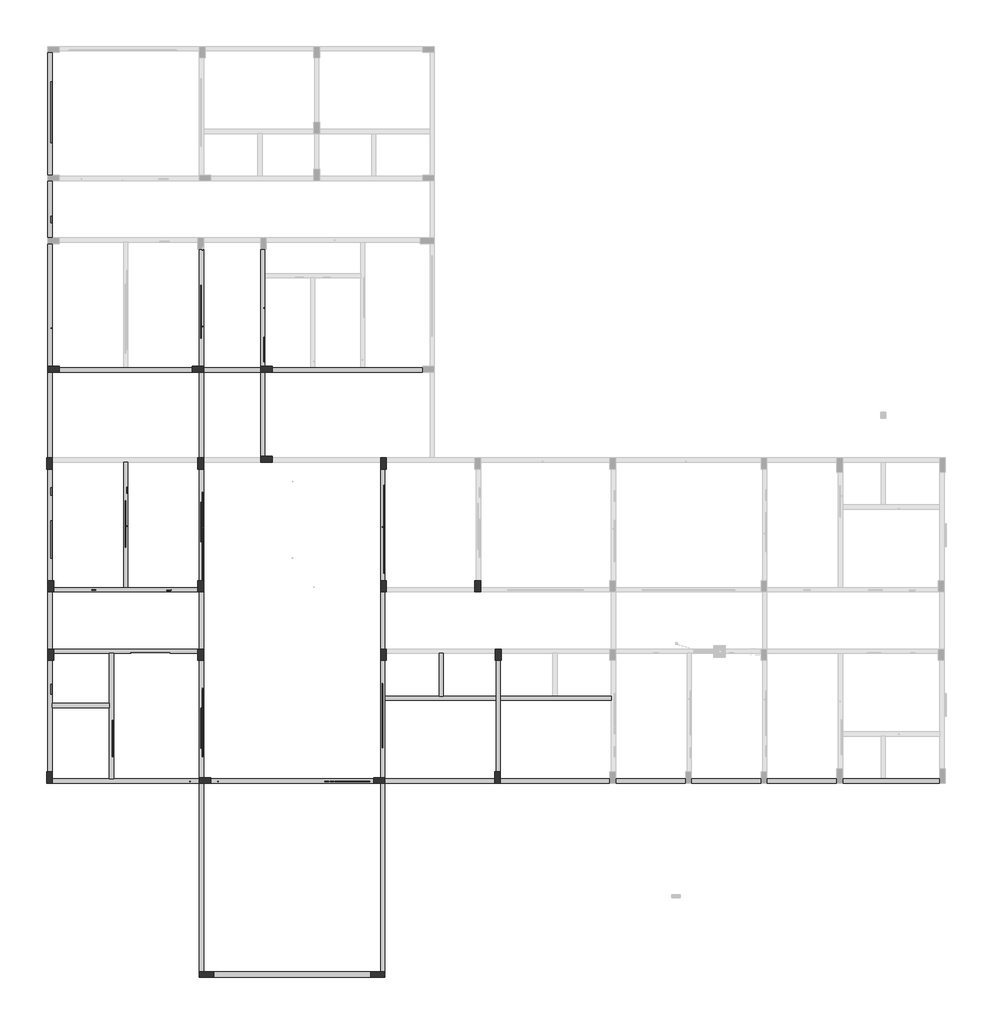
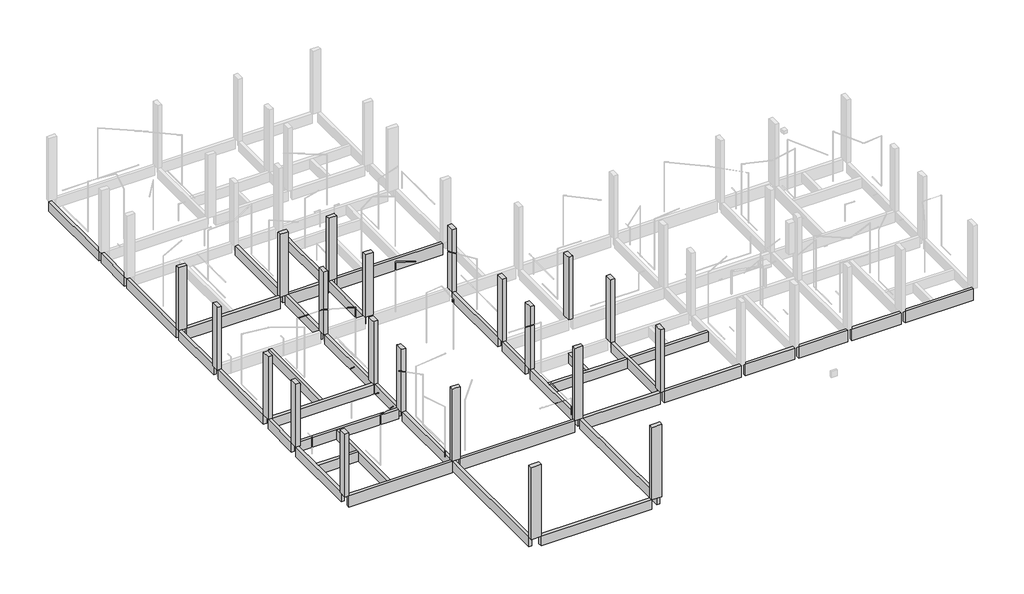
# One storey, part 1 of 4: 21 columns, 15 beams.
"""IFC4 building model written with IfcOpenShell, lengths in millimetres."""

from ifc_helpers import new_model, si_unit, frame, origin, place, context, project, spatial, polyline, outline, extrude, faceted_brep, element, save

model = new_model("IFC4")

# Units and contexts
model_context = context("Model", 3, world=origin())
ifc_project = project(units=[si_unit("LENGTHUNIT", "METRE", prefix="MILLI")], contexts=[model_context])

# Site, building, storey
site = spatial("IfcSite", under=ifc_project)
building = spatial("IfcBuilding", under=site)
storey = spatial("IfcBuildingStorey", under=building, Name="BALDRAME", Elevation=1500.0)

# Beams
placement = place(None, origin())
element("IfcBeam", 1, ObjectType="TQS - Viga retangular : 15,0 x 50,0", at=placement, inside=storey, context=model_context, shape_type="Brep", body=[
    faceted_brep([(0.0, 21300.0, 1500.0), (150.0, 21300.0, 1500.0), (150.0, 25600.0, 1500.0), (0.0, 25600.0, 1500.0), (150.0, 21300.0, 1000.0), (150.0, 25600.0, 1000.0), (0.0, 21300.0, 1000.0), (0.0, 25600.0, 1000.0)], [[[0, 1, 2, 3]], [[1, 4, 5, 2]], [[4, 6, 7, 5]], [[6, 0, 3, 7]], [[1, 0, 6, 4]], [[3, 2, 5, 7]]]),
    faceted_brep([(150.0, 400.0, 1500.0), (0.0, 400.0, 1500.0), (0.0, 400.0, 1000.0), (150.0, 400.0, 1000.0), (0.0, 4300.0, 1500.0), (150.0, 4300.0, 1500.0), (150.0, 4300.0, 1000.0), (0.0, 4300.0, 1000.0), (150.0, 2650.0, 1500.0), (150.0, 2800.0, 1500.0), (150.0, 2650.0, 1000.0), (150.0, 2800.0, 1000.0)], [[[0, 1, 2, 3]], [[4, 5, 6, 7]], [[1, 0, 8, 9, 5, 4]], [[0, 3, 10, 11, 6, 5, 9, 8]], [[3, 2, 7, 6, 11, 10]], [[2, 1, 4, 7]]]),
    faceted_brep([(0.0, 6700.0, 1500.0), (150.0, 6700.0, 1500.0), (150.0, 6700.0, 1000.0), (0.0, 6700.0, 1000.0), (0.0, 4700.0, 1500.0), (150.0, 4700.0, 1500.0), (150.0, 4700.0, 1000.0), (0.0, 4700.0, 1000.0)], [[[0, 1, 2, 3]], [[1, 0, 4, 5]], [[2, 1, 5, 6]], [[3, 2, 6, 7]], [[0, 3, 7, 4]], [[5, 4, 7, 6]]]),
    faceted_brep([(150.0, 7100.0, 1500.0), (0.0, 7100.0, 1500.0), (0.0, 7100.0, 1000.0), (150.0, 7100.0, 1000.0), (0.0, 11000.0, 1500.0), (150.0, 11000.0, 1500.0), (150.0, 11000.0, 1000.0), (0.0, 11000.0, 1000.0)], [[[0, 1, 2, 3]], [[4, 5, 6, 7]], [[1, 0, 5, 4]], [[0, 3, 6, 5]], [[3, 2, 7, 6]], [[2, 1, 4, 7]]]),
    faceted_brep([(150.0, 11400.0, 1500.0), (0.0, 11400.0, 1500.0), (0.0, 11400.0, 1000.0), (150.0, 11400.0, 1000.0), (0.0, 14400.0, 1500.0), (150.0, 14400.0, 1500.0), (150.0, 14400.0, 1000.0), (0.0, 14400.0, 1000.0)], [[[0, 1, 2, 3]], [[4, 5, 6, 7]], [[1, 0, 5, 4]], [[0, 3, 6, 5]], [[3, 2, 7, 6]], [[2, 1, 4, 7]]]),
    faceted_brep([(150.0, 14600.0, 1500.0), (0.0, 14600.0, 1500.0), (0.0, 14600.0, 1000.0), (150.0, 14600.0, 1000.0), (0.0, 18900.0, 1500.0), (150.0, 18900.0, 1500.0), (150.0, 18900.0, 1000.0), (0.0, 18900.0, 1000.0)], [[[0, 1, 2, 3]], [[4, 5, 6, 7]], [[1, 0, 5, 4]], [[0, 3, 6, 5]], [[3, 2, 7, 6]], [[2, 1, 4, 7]]]),
    faceted_brep([(150.0, 19100.0, 1500.0), (0.0, 19100.0, 1500.0), (0.0, 19100.0, 1000.0), (150.0, 19100.0, 1000.0), (0.0, 21100.0, 1500.0), (150.0, 21100.0, 1500.0), (150.0, 21100.0, 1000.0), (0.0, 21100.0, 1000.0)], [[[0, 1, 2, 3]], [[4, 5, 6, 7]], [[1, 0, 5, 4]], [[0, 3, 6, 5]], [[3, 2, 7, 6]], [[2, 1, 4, 7]]]),
])
element("IfcBeam", 2, ObjectType="TQS - Viga retangular : 15,0 x 50,0", at=placement, inside=storey, context=model_context, shape_type="Brep", body=[
    faceted_brep([(5250.0, 6700.0, 1500.0), (5250.0, 6850.0, 1500.0), (2800.0, 6850.0, 1500.0), (2650.0, 6850.0, 1500.0), (200.0, 6850.0, 1500.0), (200.0, 6700.0, 1500.0), (5250.0, 6700.0, 1000.0), (200.0, 6700.0, 1000.0), (5250.0, 6850.0, 1000.0), (200.0, 6850.0, 1000.0), (2650.0, 6850.0, 1000.0), (2800.0, 6850.0, 1000.0)], [[[0, 1, 2, 3, 4, 5]], [[6, 0, 5, 7]], [[8, 6, 7, 9, 10, 11]], [[1, 8, 11, 10, 9, 4, 3, 2]], [[1, 0, 6, 8]], [[5, 4, 9, 7]]]),
])
element("IfcBeam", 3, ObjectType="TQS - Viga retangular : 15,0 x 50,0", at=placement, inside=storey, context=model_context, shape_type="Brep", body=[
    faceted_brep([(5250.0, 4550.0, 1500.0), (5250.0, 4700.0, 1500.0), (200.0, 4700.0, 1500.0), (200.0, 4550.0, 1500.0), (2150.0, 4550.0, 1500.0), (2300.0, 4550.0, 1500.0), (5250.0, 4550.0, 1000.0), (200.0, 4550.0, 1000.0), (2150.0, 4550.0, 1000.0), (2300.0, 4550.0, 1000.0), (5250.0, 4700.0, 1000.0), (200.0, 4700.0, 1000.0)], [[[0, 1, 2, 3, 4, 5]], [[6, 0, 5, 4, 3, 7, 8, 9]], [[10, 6, 9, 8, 7, 11]], [[1, 10, 11, 2]], [[1, 0, 6, 10]], [[3, 2, 11, 7]]]),
])
element("IfcBeam", 4, ObjectType="TQS - Viga retangular : 15,0 x 50,0", at=placement, inside=storey, context=model_context, shape_type="SweptSolid", body=[
    extrude(outline(polyline([(5450.0, 14600.0), (5300.0, 14600.0), (5300.0, 18700.0), (5450.0, 18700.0), (5450.0, 14600.0)])), frame((0.0, 0.0, 1000.0), z_axis=(0.0, 0.0, 1.0), x_axis=(1.0, 0.0, 0.0)), (0.0, 0.0, 1.0), 500.0),
    extrude(outline(polyline([(5300.0, 0.0), (5450.0, 0.0), (5450.0, -6600.0), (5300.0, -6600.0), (5300.0, 0.0)])), frame((0.0, 0.0, 1000.0), z_axis=(0.0, 0.0, 1.0), x_axis=(1.0, 0.0, 0.0)), (0.0, 0.0, 1.0), 500.0),
    extrude(outline(polyline([(5450.0, 200.0), (5300.0, 200.0), (5300.0, 4300.0), (5450.0, 4300.0), (5450.0, 200.0)])), frame((0.0, 0.0, 1000.0), z_axis=(0.0, 0.0, 1.0), x_axis=(1.0, 0.0, 0.0)), (0.0, 0.0, 1.0), 500.0),
    extrude(outline(polyline([(5450.0, 4700.0), (5300.0, 4700.0), (5300.0, 6700.0), (5450.0, 6700.0), (5450.0, 4700.0)])), frame((0.0, 0.0, 1000.0), z_axis=(0.0, 0.0, 1.0), x_axis=(1.0, 0.0, 0.0)), (0.0, 0.0, 1.0), 500.0),
    extrude(outline(polyline([(5450.0, 7100.0), (5300.0, 7100.0), (5300.0, 11000.0), (5450.0, 11000.0), (5450.0, 7100.0)])), frame((0.0, 0.0, 1000.0), z_axis=(0.0, 0.0, 1.0), x_axis=(1.0, 0.0, 0.0)), (0.0, 0.0, 1.0), 500.0),
    extrude(outline(polyline([(5450.0, 11400.0), (5300.0, 11400.0), (5300.0, 14400.0), (5450.0, 14400.0), (5450.0, 11400.0)])), frame((0.0, 0.0, 1000.0), z_axis=(0.0, 0.0, 1.0), x_axis=(1.0, 0.0, 0.0)), (0.0, 0.0, 1.0), 500.0),
])
element("IfcBeam", 5, ObjectType="TQS - Viga retangular : 15,0 x 50,0", at=placement, inside=storey, context=model_context, shape_type="Brep", body=[
    faceted_brep([(11800.0, 0.0, 1500.0), (11650.0, 0.0, 1500.0), (11650.0, -6600.0, 1500.0), (11800.0, -6600.0, 1500.0), (11800.0, 0.0, 1000.0), (11800.0, -6600.0, 1000.0), (11650.0, 0.0, 1000.0), (11650.0, -6600.0, 1000.0)], [[[0, 1, 2, 3]], [[4, 0, 3, 5]], [[6, 4, 5, 7]], [[1, 6, 7, 2]], [[1, 0, 4, 6]], [[3, 2, 7, 5]]]),
    faceted_brep([(11800.0, 200.0, 1500.0), (11650.0, 200.0, 1500.0), (11650.0, 200.0, 1000.0), (11800.0, 200.0, 1000.0), (11650.0, 4300.0, 1500.0), (11800.0, 4300.0, 1500.0), (11800.0, 4300.0, 1000.0), (11650.0, 4300.0, 1000.0), (11800.0, 2900.0, 1500.0), (11800.0, 3050.0, 1500.0), (11800.0, 2900.0, 1000.0), (11800.0, 3050.0, 1000.0)], [[[0, 1, 2, 3]], [[4, 5, 6, 7]], [[1, 0, 8, 9, 5, 4]], [[0, 3, 10, 11, 6, 5, 9, 8]], [[3, 2, 7, 6, 11, 10]], [[2, 1, 4, 7]]]),
    faceted_brep([(11650.0, 6700.0, 1500.0), (11650.0, 4700.0, 1500.0), (11800.0, 4700.0, 1500.0), (11800.0, 6700.0, 1500.0), (11800.0, 4700.0, 1000.0), (11800.0, 6700.0, 1000.0), (11650.0, 4700.0, 1000.0), (11650.0, 6700.0, 1000.0)], [[[0, 1, 2, 3]], [[3, 2, 4, 5]], [[5, 4, 6, 7]], [[1, 0, 7, 6]], [[2, 1, 6, 4]], [[0, 3, 5, 7]]]),
    faceted_brep([(11800.0, 7100.0, 1500.0), (11650.0, 7100.0, 1500.0), (11650.0, 7100.0, 1000.0), (11800.0, 7100.0, 1000.0), (11650.0, 11000.0, 1500.0), (11800.0, 11000.0, 1500.0), (11800.0, 11000.0, 1000.0), (11650.0, 11000.0, 1000.0)], [[[0, 1, 2, 3]], [[4, 5, 6, 7]], [[4, 1, 0, 5]], [[5, 0, 3, 6]], [[6, 3, 2, 7]], [[1, 4, 7, 2]]]),
])
element("IfcBeam", 6, ObjectType="TQS - Viga retangular : 15,0 x 50,0", at=placement, inside=storey, context=model_context, shape_type="Brep", body=[
    faceted_brep([(15690.0, 400.0, 1500.0), (15840.0, 400.0, 1500.0), (15840.0, 2900.0, 1500.0), (15840.0, 3050.0, 1500.0), (15840.0, 4300.0, 1500.0), (15690.0, 4300.0, 1500.0), (15690.0, 3050.0, 1500.0), (15690.0, 2900.0, 1500.0), (15840.0, 400.0, 1000.0), (15840.0, 2900.0, 1000.0), (15840.0, 3050.0, 1000.0), (15840.0, 4300.0, 1000.0), (15690.0, 400.0, 1000.0), (15690.0, 2900.0, 1000.0), (15690.0, 3050.0, 1000.0), (15690.0, 4300.0, 1000.0)], [[[0, 1, 2, 3, 4, 5, 6, 7]], [[1, 8, 9, 10, 11, 4, 3, 2]], [[8, 12, 13, 14, 15, 11, 10, 9]], [[12, 0, 7, 6, 5, 15, 14, 13]], [[1, 0, 12, 8]], [[5, 4, 11, 15]]]),
])
element("IfcBeam", 7, ObjectType="TQS - Viga retangular : 15,0 x 50,0", at=placement, inside=storey, context=model_context, shape_type="Brep", body=[
    faceted_brep([(15840.0, 3050.0, 1500.0), (15840.0, 2900.0, 1500.0), (19730.0, 2900.0, 1500.0), (19730.0, 3050.0, 1500.0), (17830.0, 3050.0, 1500.0), (17680.0, 3050.0, 1500.0), (15840.0, 2900.0, 1000.0), (19730.0, 2900.0, 1000.0), (15840.0, 3050.0, 1000.0), (17680.0, 3050.0, 1000.0), (17830.0, 3050.0, 1000.0), (19730.0, 3050.0, 1000.0)], [[[0, 1, 2, 3, 4, 5]], [[1, 6, 7, 2]], [[6, 8, 9, 10, 11, 7]], [[8, 0, 5, 4, 3, 11, 10, 9]], [[1, 0, 8, 6]], [[3, 2, 7, 11]]]),
    faceted_brep([(11800.0, 2900.0, 1500.0), (11800.0, 3050.0, 1500.0), (11800.0, 3050.0, 1000.0), (11800.0, 2900.0, 1000.0), (15690.0, 3050.0, 1500.0), (15690.0, 2900.0, 1500.0), (15690.0, 2900.0, 1000.0), (15690.0, 3050.0, 1000.0), (13850.0, 3050.0, 1500.0), (13700.0, 3050.0, 1500.0), (13700.0, 3050.0, 1000.0), (13850.0, 3050.0, 1000.0)], [[[0, 1, 2, 3]], [[4, 5, 6, 7]], [[1, 0, 5, 4, 8, 9]], [[0, 3, 6, 5]], [[3, 2, 10, 11, 7, 6]], [[2, 1, 9, 8, 4, 7, 11, 10]]]),
])
element("IfcBeam", 8, ObjectType="TQS - Viga retangular : 15,0 x 50,0", at=placement, inside=storey, context=model_context, shape_type="SweptSolid", body=[
    extrude(outline(polyline([(13700.0, 4550.0), (13850.0, 4550.0), (13850.0, 3050.0), (13700.0, 3050.0), (13700.0, 4550.0)])), frame((0.0, 0.0, 1000.0), z_axis=(0.0, 0.0, 1.0), x_axis=(1.0, 0.0, 0.0)), (0.0, 0.0, 1.0), 500.0),
])
element("IfcBeam", 9, ObjectType="TQS - Viga retangular : 15,0 x 50,0", at=placement, inside=storey, context=model_context, shape_type="Brep", body=[
    faceted_brep([(2150.0, 150.0, 1500.0), (2300.0, 150.0, 1500.0), (2300.0, 4550.0, 1500.0), (2150.0, 4550.0, 1500.0), (2150.0, 2800.0, 1500.0), (2150.0, 2650.0, 1500.0), (2300.0, 150.0, 1000.0), (2300.0, 4550.0, 1000.0), (2150.0, 150.0, 1000.0), (2150.0, 2650.0, 1000.0), (2150.0, 2800.0, 1000.0), (2150.0, 4550.0, 1000.0)], [[[0, 1, 2, 3, 4, 5]], [[1, 6, 7, 2]], [[6, 8, 9, 10, 11, 7]], [[8, 0, 5, 4, 3, 11, 10, 9]], [[1, 0, 8, 6]], [[3, 2, 7, 11]]]),
])
element("IfcBeam", 10, ObjectType="TQS - Viga retangular : 15,0 x 50,0", at=placement, inside=storey, context=model_context, shape_type="SweptSolid", body=[
    extrude(outline(polyline([(150.0, 2650.0), (150.0, 2800.0), (2150.0, 2800.0), (2150.0, 2650.0), (150.0, 2650.0)])), frame((0.0, 0.0, 1000.0), z_axis=(0.0, 0.0, 1.0), x_axis=(1.0, 0.0, 0.0)), (0.0, 0.0, 1.0), 500.0),
])
element("IfcBeam", 11, ObjectType="TQS - Viga retangular : 15,0 x 50,0", at=placement, inside=storey, context=model_context, shape_type="Brep", body=[
    faceted_brep([(7600.0, 14400.0, 1500.0), (7450.0, 14400.0, 1500.0), (7450.0, 11450.0, 1500.0), (7600.0, 11450.0, 1500.0), (7600.0, 14400.0, 1000.0), (7600.0, 11450.0, 1000.0), (7450.0, 14400.0, 1000.0), (7450.0, 11450.0, 1000.0)], [[[0, 1, 2, 3]], [[4, 0, 3, 5]], [[6, 4, 5, 7]], [[1, 6, 7, 2]], [[1, 0, 4, 6]], [[3, 2, 7, 5]]]),
    faceted_brep([(7450.0, 18700.0, 1500.0), (7600.0, 18700.0, 1500.0), (7600.0, 18700.0, 1000.0), (7450.0, 18700.0, 1000.0), (7600.0, 14600.0, 1500.0), (7450.0, 14600.0, 1500.0), (7450.0, 14600.0, 1000.0), (7600.0, 14600.0, 1000.0), (7600.0, 17700.0, 1500.0), (7600.0, 17850.0, 1500.0), (7600.0, 17700.0, 1000.0), (7600.0, 17850.0, 1000.0)], [[[0, 1, 2, 3]], [[4, 5, 6, 7]], [[1, 0, 5, 4, 8, 9]], [[2, 1, 9, 8, 4, 7, 10, 11]], [[3, 2, 11, 10, 7, 6]], [[0, 3, 6, 5]]]),
])
element("IfcBeam", 12, ObjectType="TQS - Viga retangular : 15,0 x 50,0", at=placement, inside=storey, context=model_context, shape_type="SweptSolid", body=[
    extrude(outline(polyline([(2650.0, 11250.0), (2800.0, 11250.0), (2800.0, 6850.0), (2650.0, 6850.0), (2650.0, 11250.0)])), frame((0.0, 0.0, 1000.0), z_axis=(0.0, 0.0, 1.0), x_axis=(1.0, 0.0, 0.0)), (0.0, 0.0, 1.0), 500.0),
])
element("IfcBeam", 13, ObjectType="TQS - Viga retangular : 15,0 x 60,0", at=placement, inside=storey, context=model_context, shape_type="Brep", body=[
    faceted_brep([(31230.0, 0.0, 1500.0), (31230.0, 150.0, 1500.0), (29330.0, 150.0, 1500.0), (29180.0, 150.0, 1500.0), (27830.0, 150.0, 1500.0), (27830.0, 0.0, 1500.0), (31230.0, 0.0, 900.0), (27830.0, 0.0, 900.0), (31230.0, 150.0, 900.0), (27830.0, 150.0, 900.0)], [[[0, 1, 2, 3, 4, 5]], [[6, 0, 5, 7]], [[8, 6, 7, 9]], [[1, 8, 9, 4, 3, 2]], [[1, 0, 6, 8]], [[5, 4, 9, 7]]]),
    faceted_brep([(150.0, 0.0, 1500.0), (150.0, 150.0, 1500.0), (150.0, 150.0, 900.0), (150.0, 0.0, 900.0), (5300.0, 150.0, 1500.0), (5300.0, 0.0, 1500.0), (5300.0, 0.0, 900.0), (5300.0, 150.0, 900.0), (2300.0, 150.0, 1500.0), (2150.0, 150.0, 1500.0)], [[[0, 1, 2, 3]], [[4, 5, 6, 7]], [[1, 0, 5, 4, 8, 9]], [[0, 3, 6, 5]], [[3, 2, 7, 6]], [[2, 1, 9, 8, 4, 7]]]),
    faceted_brep([(5700.0, 0.0, 1500.0), (5700.0, 150.0, 1500.0), (5700.0, 150.0, 900.0), (5700.0, 0.0, 900.0), (11400.0, 150.0, 1500.0), (11400.0, 0.0, 1500.0), (11400.0, 0.0, 900.0), (11400.0, 150.0, 900.0)], [[[0, 1, 2, 3]], [[4, 5, 6, 7]], [[1, 0, 5, 4]], [[0, 3, 6, 5]], [[3, 2, 7, 6]], [[2, 1, 4, 7]]]),
    faceted_brep([(11800.0, 0.0, 1500.0), (11800.0, 150.0, 1500.0), (11800.0, 150.0, 900.0), (11800.0, 0.0, 900.0), (15640.0, 150.0, 1500.0), (15640.0, 0.0, 1500.0), (15640.0, 0.0, 900.0), (15640.0, 150.0, 900.0)], [[[0, 1, 2, 3]], [[4, 5, 6, 7]], [[1, 0, 5, 4]], [[0, 3, 6, 5]], [[3, 2, 7, 6]], [[2, 1, 4, 7]]]),
    faceted_brep([(27630.0, 150.0, 1500.0), (27630.0, 0.0, 1500.0), (27630.0, 0.0, 900.0), (27630.0, 150.0, 900.0), (25180.0, 150.0, 1500.0), (25180.0, 0.0, 1500.0), (25180.0, 0.0, 900.0), (25180.0, 150.0, 900.0)], [[[0, 1, 2, 3]], [[1, 0, 4, 5]], [[2, 1, 5, 6]], [[3, 2, 6, 7]], [[0, 3, 7, 4]], [[5, 4, 7, 6]]]),
    faceted_brep([(24980.0, 150.0, 1500.0), (24980.0, 0.0, 1500.0), (24980.0, 0.0, 900.0), (24980.0, 150.0, 900.0), (22530.0, 150.0, 1500.0), (22530.0, 0.0, 1500.0), (22530.0, 0.0, 900.0), (22530.0, 150.0, 900.0)], [[[0, 1, 2, 3]], [[1, 0, 4, 5]], [[2, 1, 5, 6]], [[3, 2, 6, 7]], [[0, 3, 7, 4]], [[5, 4, 7, 6]]]),
    faceted_brep([(22330.0, 150.0, 1500.0), (22330.0, 0.0, 1500.0), (22330.0, 0.0, 900.0), (22330.0, 150.0, 900.0), (19880.0, 150.0, 1500.0), (19880.0, 0.0, 1500.0), (19880.0, 0.0, 900.0), (19880.0, 150.0, 900.0)], [[[0, 1, 2, 3]], [[1, 0, 4, 5]], [[2, 1, 5, 6]], [[3, 2, 6, 7]], [[0, 3, 7, 4]], [[5, 4, 7, 6]]]),
    faceted_brep([(19680.0, 150.0, 1500.0), (19680.0, 0.0, 1500.0), (19680.0, 0.0, 900.0), (19680.0, 150.0, 900.0), (15840.0, 150.0, 1500.0), (15840.0, 0.0, 1500.0), (15840.0, 0.0, 900.0), (15840.0, 150.0, 900.0)], [[[0, 1, 2, 3]], [[1, 0, 4, 5]], [[2, 1, 5, 6]], [[3, 2, 6, 7]], [[0, 3, 7, 4]], [[5, 4, 7, 6]]]),
])
element("IfcBeam", 14, ObjectType="TQS - Viga retangular : 15,0 x 60,0", at=placement, inside=storey, context=model_context, shape_type="Brep", body=[
    faceted_brep([(7850.0, 14550.0, 1500.0), (7850.0, 14400.0, 1500.0), (13130.0, 14400.0, 1500.0), (13130.0, 14550.0, 1500.0), (11100.0, 14550.0, 1500.0), (10950.0, 14550.0, 1500.0), (9350.0, 14550.0, 1500.0), (9200.0, 14550.0, 1500.0), (7850.0, 14400.0, 900.0), (13130.0, 14400.0, 900.0), (7850.0, 14550.0, 900.0), (13130.0, 14550.0, 900.0)], [[[0, 1, 2, 3, 4, 5, 6, 7]], [[1, 8, 9, 2]], [[8, 10, 11, 9]], [[10, 0, 7, 6, 5, 4, 3, 11]], [[1, 0, 10, 8]], [[3, 2, 9, 11]]]),
    faceted_brep([(400.0, 14400.0, 1500.0), (400.0, 14550.0, 1500.0), (400.0, 14550.0, 900.0), (400.0, 14400.0, 900.0), (5050.0, 14550.0, 1500.0), (5050.0, 14400.0, 1500.0), (5050.0, 14400.0, 900.0), (5050.0, 14550.0, 900.0), (2800.0, 14550.0, 1500.0), (2650.0, 14550.0, 1500.0)], [[[0, 1, 2, 3]], [[4, 5, 6, 7]], [[1, 0, 5, 4, 8, 9]], [[0, 3, 6, 5]], [[3, 2, 7, 6]], [[2, 1, 9, 8, 4, 7]]]),
    faceted_brep([(5450.0, 14400.0, 1500.0), (5450.0, 14550.0, 1500.0), (5450.0, 14550.0, 900.0), (5450.0, 14400.0, 900.0), (7450.0, 14550.0, 1500.0), (7450.0, 14400.0, 1500.0), (7450.0, 14400.0, 900.0), (7450.0, 14550.0, 900.0)], [[[0, 1, 2, 3]], [[4, 5, 6, 7]], [[1, 0, 5, 4]], [[0, 3, 6, 5]], [[3, 2, 7, 6]], [[2, 1, 4, 7]]]),
])
element("IfcBeam", 15, ObjectType="TQS - Viga retangular : 20,0 x 50,0", at=placement, inside=storey, context=model_context, shape_type="SweptSolid", body=[
    extrude(outline(polyline([(11300.0, -6600.0), (11300.0, -6800.0), (5800.0, -6800.0), (5800.0, -6600.0), (11300.0, -6600.0)])), frame((0.0, 0.0, 1000.0), z_axis=(0.0, 0.0, 1.0), x_axis=(1.0, 0.0, 0.0)), (0.0, 0.0, 1.0), 500.0),
])

# Columns
element("IfcColumn", 16, ObjectType="TQS - Pilar retangular : 20,0x40,0", at=placement, inside=storey, context=model_context, shape_type="Brep", body=[
    faceted_brep([(150.0, 400.0, 1500.0), (150.0, 0.0, 1500.0), (-50.0, 0.0, 1500.0), (-50.0, 400.0, 1500.0), (150.0, 400.0, 4800.0), (150.0, 150.0, 4800.0), (150.0, 0.0, 4800.0), (150.0, 0.0, 4250.0), (150.0, 400.0, 4200.0), (150.0, 400.0, 4650.0), (150.0, 400.0, 4750.0), (-50.0, 0.0, 4800.0), (-50.0, 400.0, 4800.0), (0.0, 400.0, 4800.0)], [[[0, 1, 2, 3]], [[4, 5, 6, 7, 1, 0, 8, 9, 10]], [[6, 11, 2, 1, 7]], [[11, 12, 3, 2]], [[12, 13, 4, 10, 9, 8, 0, 3]], [[4, 13, 12, 11, 6, 5]]]),
])
element("IfcColumn", 17, ObjectType="TQS - Pilar retangular : 20,0x40,0", at=placement, inside=storey, context=model_context, shape_type="Brep", body=[
    faceted_brep([(5700.0, 0.0, 1500.0), (5300.0, 0.0, 1500.0), (5300.0, 200.0, 1500.0), (5700.0, 200.0, 1500.0), (5700.0, 0.0, 4250.0), (5700.0, 0.0, 4800.0), (5700.0, 0.0, 5300.0), (5500.0, 0.0, 5300.0), (5300.0, 0.0, 5300.0), (5300.0, 0.0, 4800.0), (5300.0, 0.0, 4250.0), (5300.0, 200.0, 5300.0), (5300.0, 200.0, 4800.0), (5300.0, 200.0, 4250.0), (5700.0, 200.0, 5300.0), (5700.0, 200.0, 4800.0), (5700.0, 200.0, 4740.0), (5700.0, 200.0, 4620.0)], [[[0, 1, 2, 3]], [[1, 0, 4, 5, 6, 7, 8, 9, 10]], [[2, 1, 10, 9, 8, 11, 12, 13]], [[3, 2, 13, 12, 11, 14, 15, 16, 17]], [[0, 3, 17, 16, 15, 14, 6, 5, 4]], [[8, 7, 6, 14, 11]]]),
])
element("IfcColumn", 18, ObjectType="TQS - Pilar retangular : 20,0x40,0", at=placement, inside=storey, context=model_context, shape_type="Brep", body=[
    faceted_brep([(11800.0, 0.0, 1500.0), (11400.0, 0.0, 1500.0), (11400.0, 200.0, 1500.0), (11800.0, 200.0, 1500.0), (11800.0, 0.0, 4250.0), (11800.0, 0.0, 4800.0), (11800.0, 0.0, 5300.0), (11600.0, 0.0, 5300.0), (11400.0, 0.0, 5300.0), (11400.0, 0.0, 4800.0), (11400.0, 0.0, 4250.0), (11400.0, 200.0, 5300.0), (11400.0, 200.0, 4800.0), (11400.0, 200.0, 4740.0), (11800.0, 200.0, 5300.0), (11800.0, 200.0, 4800.0), (11800.0, 200.0, 4250.0)], [[[0, 1, 2, 3]], [[1, 0, 4, 5, 6, 7, 8, 9, 10]], [[2, 1, 10, 9, 8, 11, 12, 13]], [[3, 2, 13, 12, 11, 14, 15, 16]], [[0, 3, 16, 15, 14, 6, 5, 4]], [[8, 7, 6, 14, 11]]]),
])
element("IfcColumn", 19, ObjectType="TQS - Pilar retangular : 20,0x40,0", at=placement, inside=storey, context=model_context, shape_type="Brep", body=[
    faceted_brep([(15840.0, 400.0, 1500.0), (15840.0, 0.0, 1500.0), (15640.0, 0.0, 1500.0), (15640.0, 400.0, 1500.0), (15840.0, 400.0, 4250.0), (15840.0, 400.0, 4800.0), (15840.0, 150.0, 4800.0), (15840.0, 0.0, 4800.0), (15840.0, 0.0, 4250.0), (15640.0, 0.0, 4800.0), (15640.0, 0.0, 4250.0), (15640.0, 150.0, 4800.0), (15640.0, 400.0, 4800.0), (15640.0, 400.0, 4750.0), (15640.0, 400.0, 4650.0), (15690.0, 400.0, 4800.0)], [[[0, 1, 2, 3]], [[1, 0, 4, 5, 6, 7, 8]], [[2, 1, 8, 7, 9, 10]], [[3, 2, 10, 9, 11, 12, 13, 14]], [[0, 3, 14, 13, 12, 15, 5, 4]], [[7, 6, 5, 15, 12, 11, 9]]]),
])
element("IfcColumn", 20, ObjectType="TQS - Pilar retangular : 20,0x40,0", at=placement, inside=storey, context=model_context, shape_type="Brep", body=[
    faceted_brep([(11850.0, 4700.0, 1500.0), (11850.0, 4300.0, 1500.0), (11650.0, 4300.0, 1500.0), (11650.0, 4700.0, 1500.0), (11850.0, 4700.0, 4200.0), (11850.0, 4700.0, 4800.0), (11850.0, 4550.0, 4800.0), (11850.0, 4300.0, 4800.0), (11850.0, 4300.0, 4750.0), (11850.0, 4300.0, 4650.0), (11800.0, 4300.0, 4800.0), (11650.0, 4300.0, 4800.0), (11650.0, 4300.0, 4250.0), (11650.0, 4700.0, 4800.0), (11650.0, 4700.0, 4250.0), (11800.0, 4700.0, 4800.0)], [[[0, 1, 2, 3]], [[1, 0, 4, 5, 6, 7, 8, 9]], [[2, 1, 9, 8, 7, 10, 11, 12]], [[3, 2, 12, 11, 13, 14]], [[0, 3, 14, 13, 15, 5, 4]], [[13, 11, 10, 7, 6, 5, 15]]]),
])
element("IfcColumn", 21, ObjectType="TQS - Pilar retangular : 20,0x40,0", at=placement, inside=storey, context=model_context, shape_type="Brep", body=[
    faceted_brep([(11850.0, 7100.0, 1500.0), (11850.0, 6700.0, 1500.0), (11650.0, 6700.0, 1500.0), (11650.0, 7100.0, 1500.0), (11850.0, 7100.0, 4650.0), (11850.0, 7100.0, 4750.0), (11850.0, 7100.0, 4800.0), (11850.0, 6850.0, 4800.0), (11850.0, 6700.0, 4800.0), (11850.0, 6700.0, 4200.0), (11800.0, 6700.0, 4800.0), (11650.0, 6700.0, 4800.0), (11650.0, 6700.0, 4250.0), (11650.0, 7100.0, 4800.0), (11650.0, 7100.0, 4250.0), (11800.0, 7100.0, 4800.0)], [[[0, 1, 2, 3]], [[1, 0, 4, 5, 6, 7, 8, 9]], [[2, 1, 9, 8, 10, 11, 12]], [[3, 2, 12, 11, 13, 14]], [[0, 3, 14, 13, 15, 6, 5, 4]], [[11, 10, 8, 7, 6, 15, 13]]]),
])
element("IfcColumn", 22, ObjectType="TQS - Pilar retangular : 20,0x40,0", at=placement, inside=storey, context=model_context, shape_type="Brep", body=[
    faceted_brep([(11850.0, 11400.0, 1500.0), (11850.0, 11000.0, 1500.0), (11650.0, 11000.0, 1500.0), (11650.0, 11400.0, 1500.0), (11850.0, 11400.0, 4250.0), (11850.0, 11400.0, 4800.0), (11850.0, 11250.0, 4800.0), (11850.0, 11000.0, 4800.0), (11850.0, 11000.0, 4750.0), (11850.0, 11000.0, 4650.0), (11800.0, 11000.0, 4800.0), (11650.0, 11000.0, 4800.0), (11650.0, 11000.0, 4250.0), (11650.0, 11250.0, 4800.0), (11650.0, 11400.0, 4800.0), (11650.0, 11400.0, 4250.0)], [[[0, 1, 2, 3]], [[1, 0, 4, 5, 6, 7, 8, 9]], [[2, 1, 9, 8, 7, 10, 11, 12]], [[3, 2, 12, 11, 13, 14, 15]], [[0, 3, 15, 14, 5, 4]], [[14, 13, 11, 10, 7, 6, 5]]]),
])
element("IfcColumn", 23, ObjectType="TQS - Pilar retangular : 20,0x40,0", at=placement, inside=storey, context=model_context, shape_type="Brep", body=[
    faceted_brep([(15865.0, 4700.0, 1500.0), (15865.0, 4300.0, 1500.0), (15665.0, 4300.0, 1500.0), (15665.0, 4700.0, 1500.0), (15865.0, 4700.0, 4200.0), (15865.0, 4700.0, 4800.0), (15865.0, 4550.0, 4800.0), (15865.0, 4300.0, 4800.0), (15865.0, 4300.0, 4750.0), (15865.0, 4300.0, 4650.0), (15840.0, 4300.0, 4800.0), (15690.0, 4300.0, 4800.0), (15665.0, 4300.0, 4800.0), (15665.0, 4300.0, 4750.0), (15665.0, 4300.0, 4650.0), (15665.0, 4550.0, 4800.0), (15665.0, 4700.0, 4800.0), (15665.0, 4700.0, 4200.0)], [[[0, 1, 2, 3]], [[1, 0, 4, 5, 6, 7, 8, 9]], [[2, 1, 9, 8, 7, 10, 11, 12, 13, 14]], [[3, 2, 14, 13, 12, 15, 16, 17]], [[0, 3, 17, 16, 5, 4]], [[5, 16, 15, 12, 11, 10, 7, 6]]]),
])
element("IfcColumn", 24, ObjectType="TQS - Pilar retangular : 20,0x40,0", at=placement, inside=storey, context=model_context, shape_type="Brep", body=[
    faceted_brep([(15150.0, 7100.0, 1500.0), (15150.0, 6700.0, 1500.0), (14950.0, 6700.0, 1500.0), (14950.0, 7100.0, 1500.0), (15150.0, 7100.0, 4300.0), (15150.0, 7100.0, 4800.0), (15150.0, 6850.0, 4800.0), (15150.0, 6700.0, 4800.0), (15150.0, 6700.0, 4200.0), (14950.0, 6700.0, 4800.0), (14950.0, 6700.0, 4200.0), (14950.0, 6850.0, 4800.0), (14950.0, 7100.0, 4800.0), (14950.0, 7100.0, 4750.0), (14950.0, 7100.0, 4650.0), (15000.0, 7100.0, 4800.0)], [[[0, 1, 2, 3]], [[1, 0, 4, 5, 6, 7, 8]], [[2, 1, 8, 7, 9, 10]], [[3, 2, 10, 9, 11, 12, 13, 14]], [[0, 3, 14, 13, 12, 15, 5, 4]], [[7, 6, 5, 15, 12, 11, 9]]]),
])
element("IfcColumn", 25, ObjectType="TQS - Pilar retangular : 20,0x40,0", at=placement, inside=storey, context=model_context, shape_type="Brep", body=[
    faceted_brep([(5450.0, 4700.0, 1500.0), (5450.0, 4300.0, 1500.0), (5250.0, 4300.0, 1500.0), (5250.0, 4700.0, 1500.0), (5450.0, 4700.0, 4250.0), (5450.0, 4700.0, 4800.0), (5450.0, 4300.0, 4800.0), (5450.0, 4300.0, 4250.0), (5300.0, 4300.0, 4800.0), (5250.0, 4300.0, 4800.0), (5250.0, 4300.0, 4750.0), (5250.0, 4300.0, 4650.0), (5250.0, 4550.0, 4800.0), (5250.0, 4700.0, 4800.0), (5250.0, 4700.0, 4200.0), (5300.0, 4700.0, 4800.0)], [[[0, 1, 2, 3]], [[1, 0, 4, 5, 6, 7]], [[2, 1, 7, 6, 8, 9, 10, 11]], [[3, 2, 11, 10, 9, 12, 13, 14]], [[0, 3, 14, 13, 15, 5, 4]], [[6, 5, 15, 13, 12, 9, 8]]]),
])
element("IfcColumn", 26, ObjectType="TQS - Pilar retangular : 20,0x40,0", at=placement, inside=storey, context=model_context, shape_type="Brep", body=[
    faceted_brep([(5450.0, 7100.0, 1500.0), (5450.0, 6700.0, 1500.0), (5250.0, 6700.0, 1500.0), (5250.0, 7100.0, 1500.0), (5450.0, 7100.0, 4250.0), (5450.0, 7100.0, 4800.0), (5450.0, 6700.0, 4800.0), (5450.0, 6700.0, 4250.0), (5300.0, 6700.0, 4800.0), (5250.0, 6700.0, 4800.0), (5250.0, 6700.0, 4250.0), (5250.0, 6850.0, 4800.0), (5250.0, 7100.0, 4800.0), (5250.0, 7100.0, 4750.0), (5300.0, 7100.0, 4800.0)], [[[0, 1, 2, 3]], [[1, 0, 4, 5, 6, 7]], [[2, 1, 7, 6, 8, 9, 10]], [[3, 2, 10, 9, 11, 12, 13]], [[0, 3, 13, 12, 14, 5, 4]], [[6, 5, 14, 12, 11, 9, 8]]]),
])
element("IfcColumn", 27, ObjectType="TQS - Pilar retangular : 20,0x40,0", at=placement, inside=storey, context=model_context, shape_type="Brep", body=[
    faceted_brep([(200.0, 7100.0, 1500.0), (200.0, 6700.0, 1500.0), (0.0, 6700.0, 1500.0), (0.0, 7100.0, 1500.0), (200.0, 7100.0, 4750.0), (200.0, 7100.0, 4800.0), (200.0, 6850.0, 4800.0), (200.0, 6700.0, 4800.0), (200.0, 6700.0, 4250.0), (150.0, 6700.0, 4800.0), (0.0, 6700.0, 4800.0), (0.0, 6700.0, 4200.0), (0.0, 7100.0, 4800.0), (0.0, 7100.0, 4200.0), (150.0, 7100.0, 4800.0)], [[[0, 1, 2, 3]], [[1, 0, 4, 5, 6, 7, 8]], [[2, 1, 8, 7, 9, 10, 11]], [[3, 2, 11, 10, 12, 13]], [[0, 3, 13, 12, 14, 5, 4]], [[10, 9, 7, 6, 5, 14, 12]]]),
])
element("IfcColumn", 28, ObjectType="TQS - Pilar retangular : 20,0x40,0", at=placement, inside=storey, context=model_context, shape_type="Brep", body=[
    faceted_brep([(200.0, 4700.0, 1500.0), (200.0, 4300.0, 1500.0), (0.0, 4300.0, 1500.0), (0.0, 4700.0, 1500.0), (200.0, 4700.0, 4200.0), (200.0, 4700.0, 4800.0), (200.0, 4550.0, 4800.0), (200.0, 4300.0, 4800.0), (200.0, 4300.0, 4750.0), (200.0, 4300.0, 4650.0), (150.0, 4300.0, 4800.0), (0.0, 4300.0, 4800.0), (0.0, 4300.0, 4200.0), (0.0, 4700.0, 4800.0), (0.0, 4700.0, 4200.0), (150.0, 4700.0, 4800.0)], [[[0, 1, 2, 3]], [[1, 0, 4, 5, 6, 7, 8, 9]], [[2, 1, 9, 8, 7, 10, 11, 12]], [[3, 2, 12, 11, 13, 14]], [[0, 3, 14, 13, 15, 5, 4]], [[13, 11, 10, 7, 6, 5, 15]]]),
])
element("IfcColumn", 29, ObjectType="TQS - Pilar retangular : 20,0x40,0", at=placement, inside=storey, context=model_context, shape_type="Brep", body=[
    faceted_brep([(150.0, 11400.0, 1500.0), (150.0, 11000.0, 1500.0), (-50.0, 11000.0, 1500.0), (-50.0, 11400.0, 1500.0), (150.0, 11400.0, 4800.0), (150.0, 11250.0, 4800.0), (150.0, 11000.0, 4800.0), (150.0, 11000.0, 4200.0), (150.0, 11400.0, 4250.0), (0.0, 11000.0, 4800.0), (-50.0, 11000.0, 4800.0), (-50.0, 11400.0, 4800.0)], [[[0, 1, 2, 3]], [[4, 5, 6, 7, 1, 0, 8]], [[6, 9, 10, 2, 1, 7]], [[10, 11, 3, 2]], [[11, 4, 8, 0, 3]], [[4, 11, 10, 9, 6, 5]]]),
])
element("IfcColumn", 30, ObjectType="TQS - Pilar retangular : 20,0x40,0", at=placement, inside=storey, context=model_context, shape_type="Brep", body=[
    faceted_brep([(5450.0, 11400.0, 1500.0), (5450.0, 11000.0, 1500.0), (5250.0, 11000.0, 1500.0), (5250.0, 11400.0, 1500.0), (5450.0, 11400.0, 4250.0), (5450.0, 11400.0, 4800.0), (5450.0, 11250.0, 4800.0), (5450.0, 11000.0, 4800.0), (5450.0, 11000.0, 4250.0), (5300.0, 11000.0, 4800.0), (5250.0, 11000.0, 4800.0), (5250.0, 11000.0, 4750.0), (5250.0, 11250.0, 4800.0), (5250.0, 11400.0, 4800.0), (5250.0, 11400.0, 4250.0), (5300.0, 11400.0, 4800.0)], [[[0, 1, 2, 3]], [[1, 0, 4, 5, 6, 7, 8]], [[2, 1, 8, 7, 9, 10, 11]], [[3, 2, 11, 10, 12, 13, 14]], [[0, 3, 14, 13, 15, 5, 4]], [[7, 6, 5, 15, 13, 12, 10, 9]]]),
])
element("IfcColumn", 31, ObjectType="TQS - Pilar retangular : 20,0x40,0", at=placement, inside=storey, context=model_context, shape_type="Brep", body=[
    faceted_brep([(400.0, 14400.0, 1500.0), (0.0, 14400.0, 1500.0), (0.0, 14600.0, 1500.0), (400.0, 14600.0, 1500.0), (400.0, 14400.0, 4250.0), (400.0, 14400.0, 4800.0), (0.0, 14400.0, 4800.0), (0.0, 14600.0, 4800.0), (0.0, 14600.0, 4250.0), (150.0, 14600.0, 4800.0), (400.0, 14600.0, 4800.0), (400.0, 14600.0, 4750.0), (400.0, 14550.0, 4800.0)], [[[0, 1, 2, 3]], [[1, 0, 4, 5, 6]], [[2, 1, 6, 7, 8]], [[3, 2, 8, 7, 9, 10, 11]], [[0, 3, 11, 10, 12, 5, 4]], [[6, 5, 12, 10, 9, 7]]]),
])
element("IfcColumn", 32, ObjectType="TQS - Pilar retangular : 20,0x40,0", at=placement, inside=storey, context=model_context, shape_type="Brep", body=[
    faceted_brep([(5450.0, 14400.0, 1500.0), (5050.0, 14400.0, 1500.0), (5050.0, 14600.0, 1500.0), (5450.0, 14600.0, 1500.0), (5450.0, 14400.0, 4250.0), (5450.0, 14400.0, 4800.0), (5300.0, 14400.0, 4800.0), (5050.0, 14400.0, 4800.0), (5050.0, 14400.0, 4250.0), (5050.0, 14550.0, 4800.0), (5050.0, 14600.0, 4800.0), (5050.0, 14600.0, 4750.0), (5300.0, 14600.0, 4800.0), (5450.0, 14600.0, 4800.0), (5450.0, 14600.0, 4250.0), (5450.0, 14550.0, 4800.0)], [[[0, 1, 2, 3]], [[1, 0, 4, 5, 6, 7, 8]], [[2, 1, 8, 7, 9, 10, 11]], [[3, 2, 11, 10, 12, 13, 14]], [[0, 3, 14, 13, 15, 5, 4]], [[7, 6, 5, 15, 13, 12, 10, 9]]]),
])
element("IfcColumn", 33, ObjectType="TQS - Pilar retangular : 20,0x40,0", at=placement, inside=storey, context=model_context, shape_type="Brep", body=[
    faceted_brep([(7850.0, 14400.0, 1500.0), (7450.0, 14400.0, 1500.0), (7450.0, 14600.0, 1500.0), (7850.0, 14600.0, 1500.0), (7850.0, 14400.0, 4250.0), (7850.0, 14400.0, 4800.0), (7600.0, 14400.0, 4800.0), (7450.0, 14400.0, 4800.0), (7450.0, 14400.0, 4250.0), (7450.0, 14550.0, 4800.0), (7450.0, 14600.0, 4800.0), (7450.0, 14600.0, 4250.0), (7600.0, 14600.0, 4800.0), (7850.0, 14600.0, 4800.0), (7850.0, 14600.0, 4750.0), (7850.0, 14600.0, 4650.0), (7850.0, 14550.0, 4800.0)], [[[0, 1, 2, 3]], [[1, 0, 4, 5, 6, 7, 8]], [[2, 1, 8, 7, 9, 10, 11]], [[3, 2, 11, 10, 12, 13, 14, 15]], [[0, 3, 15, 14, 13, 16, 5, 4]], [[7, 6, 5, 16, 13, 12, 10, 9]]]),
])
element("IfcColumn", 34, ObjectType="TQS - Pilar retangular : 20,0x40,0", at=placement, inside=storey, context=model_context, shape_type="Brep", body=[
    faceted_brep([(7450.0, 11450.0, 1500.0), (7850.0, 11450.0, 1500.0), (7850.0, 11250.0, 1500.0), (7450.0, 11250.0, 1500.0), (7450.0, 11450.0, 4800.0), (7600.0, 11450.0, 4800.0), (7850.0, 11450.0, 4800.0), (7450.0, 11450.0, 4250.0), (7850.0, 11400.0, 4800.0), (7850.0, 11250.0, 4800.0), (7850.0, 11250.0, 4250.0), (7450.0, 11250.0, 4800.0), (7450.0, 11250.0, 4250.0), (7450.0, 11400.0, 4800.0)], [[[0, 1, 2, 3]], [[4, 5, 6, 1, 0, 7]], [[6, 8, 9, 10, 2, 1]], [[9, 11, 12, 3, 2, 10]], [[11, 13, 4, 7, 0, 3, 12]], [[4, 13, 11, 9, 8, 6, 5]]]),
])
element("IfcColumn", 35, ObjectType="TQS - Pilar retangular : 20,0x50,0", at=placement, inside=storey, context=model_context, shape_type="Brep", body=[
    faceted_brep([(5300.0, -6600.0, 1500.0), (5800.0, -6600.0, 1500.0), (5800.0, -6800.0, 1500.0), (5300.0, -6800.0, 1500.0), (5300.0, -6600.0, 5300.0), (5500.0, -6600.0, 5300.0), (5800.0, -6600.0, 5300.0), (5800.0, -6600.0, 4800.0), (5300.0, -6600.0, 4800.0), (5800.0, -6800.0, 5300.0), (5800.0, -6800.0, 4800.0), (5300.0, -6800.0, 5300.0), (5300.0, -6800.0, 4800.0)], [[[0, 1, 2, 3]], [[4, 5, 6, 7, 1, 0, 8]], [[6, 9, 10, 2, 1, 7]], [[9, 11, 12, 3, 2, 10]], [[11, 4, 8, 0, 3, 12]], [[4, 11, 9, 6, 5]]]),
])
element("IfcColumn", 36, ObjectType="TQS - Pilar retangular : 20,0x50,0", at=placement, inside=storey, context=model_context, shape_type="Brep", body=[
    faceted_brep([(11300.0, -6600.0, 1500.0), (11800.0, -6600.0, 1500.0), (11800.0, -6800.0, 1500.0), (11300.0, -6800.0, 1500.0), (11300.0, -6600.0, 5300.0), (11600.0, -6600.0, 5300.0), (11800.0, -6600.0, 5300.0), (11800.0, -6600.0, 4800.0), (11300.0, -6600.0, 4800.0), (11800.0, -6800.0, 5300.0), (11800.0, -6800.0, 4800.0), (11300.0, -6800.0, 5300.0), (11300.0, -6800.0, 4800.0)], [[[0, 1, 2, 3]], [[4, 5, 6, 7, 1, 0, 8]], [[6, 9, 10, 2, 1, 7]], [[9, 11, 12, 3, 2, 10]], [[11, 4, 8, 0, 3, 12]], [[4, 11, 9, 6, 5]]]),
])

save(model, "model.ifc")
